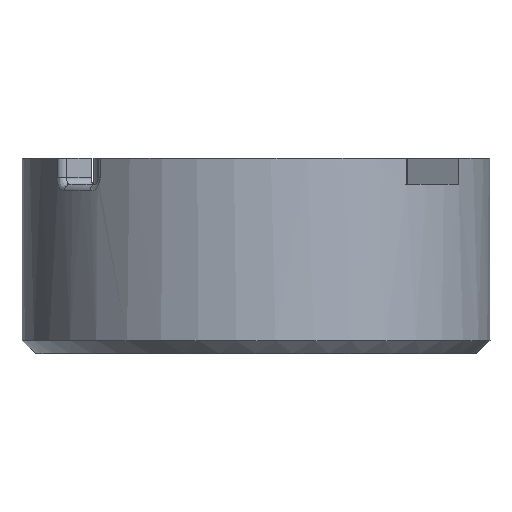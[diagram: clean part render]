
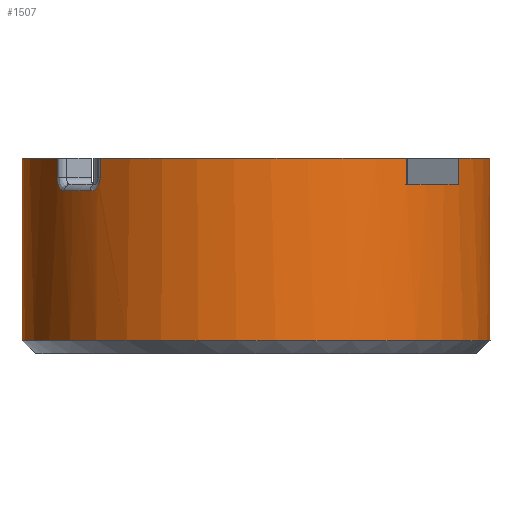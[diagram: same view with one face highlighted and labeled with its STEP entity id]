
A CAD part, front view. The second image highlights one B-rep face of the part: STEP entity #1507.
In plain terms, the highlighted cylindrical face has radius 18 mm (diameter 36 mm), a partial arc.
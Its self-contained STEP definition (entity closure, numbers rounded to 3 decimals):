
#59=LINE('',#2289,#169);
#60=LINE('',#2293,#170);
#61=LINE('',#2297,#171);
#62=LINE('',#2301,#172);
#63=LINE('',#2317,#173);
#64=LINE('',#2320,#174);
#169=VECTOR('',#1807,10.);
#170=VECTOR('',#1810,10.);
#171=VECTOR('',#1813,10.);
#172=VECTOR('',#1816,10.);
#173=VECTOR('',#1819,10.);
#174=VECTOR('',#1822,10.);
#279=CYLINDRICAL_SURFACE('',#1619,18.);
#322=FACE_OUTER_BOUND('',#409,.T.);
#409=EDGE_LOOP('',(#1026,#1027,#1028,#1029,#1030,#1031,#1032,#1033,#1034,
#1035,#1036,#1037,#1038,#1039));
#499=CIRCLE('',#1618,18.);
#500=CIRCLE('',#1620,18.);
#501=CIRCLE('',#1621,18.);
#502=CIRCLE('',#1622,18.);
#503=CIRCLE('',#1623,18.);
#504=CIRCLE('',#1624,18.);
#602=B_SPLINE_CURVE_WITH_KNOTS('',3,(#2303,#2304,#2305,#2306,#2307),
 .UNSPECIFIED.,.F.,.F.,(4,1,4),(0.,0.068,0.158),
 .UNSPECIFIED.);
#603=B_SPLINE_CURVE_WITH_KNOTS('',3,(#2311,#2312,#2313,#2314,#2315),
 .UNSPECIFIED.,.F.,.F.,(4,1,4),(0.,0.068,0.158),
 .UNSPECIFIED.);
#629=VERTEX_POINT('',#2274);
#631=VERTEX_POINT('',#2281);
#632=VERTEX_POINT('',#2288);
#633=VERTEX_POINT('',#2290);
#634=VERTEX_POINT('',#2292);
#635=VERTEX_POINT('',#2294);
#636=VERTEX_POINT('',#2296);
#637=VERTEX_POINT('',#2298);
#638=VERTEX_POINT('',#2300);
#639=VERTEX_POINT('',#2302);
#640=VERTEX_POINT('',#2308);
#641=VERTEX_POINT('',#2310);
#642=VERTEX_POINT('',#2316);
#643=VERTEX_POINT('',#2318);
#785=EDGE_CURVE('',#631,#629,#499,.T.);
#786=EDGE_CURVE('',#632,#631,#59,.T.);
#787=EDGE_CURVE('',#633,#632,#500,.T.);
#788=EDGE_CURVE('',#633,#634,#60,.T.);
#789=EDGE_CURVE('',#634,#635,#501,.T.);
#790=EDGE_CURVE('',#635,#636,#61,.T.);
#791=EDGE_CURVE('',#637,#636,#502,.T.);
#792=EDGE_CURVE('',#638,#637,#62,.T.);
#793=EDGE_CURVE('',#639,#638,#602,.T.);
#794=EDGE_CURVE('',#640,#639,#503,.T.);
#795=EDGE_CURVE('',#641,#640,#603,.T.);
#796=EDGE_CURVE('',#642,#641,#63,.T.);
#797=EDGE_CURVE('',#643,#642,#504,.T.);
#798=EDGE_CURVE('',#643,#629,#64,.T.);
#1026=ORIENTED_EDGE('',*,*,#785,.F.);
#1027=ORIENTED_EDGE('',*,*,#786,.F.);
#1028=ORIENTED_EDGE('',*,*,#787,.F.);
#1029=ORIENTED_EDGE('',*,*,#788,.T.);
#1030=ORIENTED_EDGE('',*,*,#789,.T.);
#1031=ORIENTED_EDGE('',*,*,#790,.T.);
#1032=ORIENTED_EDGE('',*,*,#791,.F.);
#1033=ORIENTED_EDGE('',*,*,#792,.F.);
#1034=ORIENTED_EDGE('',*,*,#793,.F.);
#1035=ORIENTED_EDGE('',*,*,#794,.F.);
#1036=ORIENTED_EDGE('',*,*,#795,.F.);
#1037=ORIENTED_EDGE('',*,*,#796,.F.);
#1038=ORIENTED_EDGE('',*,*,#797,.F.);
#1039=ORIENTED_EDGE('',*,*,#798,.T.);
#1507=ADVANCED_FACE('',(#322),#279,.T.);
#1618=AXIS2_PLACEMENT_3D('',#2286,#1803,#1804);
#1619=AXIS2_PLACEMENT_3D('',#2287,#1805,#1806);
#1620=AXIS2_PLACEMENT_3D('',#2291,#1808,#1809);
#1621=AXIS2_PLACEMENT_3D('',#2295,#1811,#1812);
#1622=AXIS2_PLACEMENT_3D('',#2299,#1814,#1815);
#1623=AXIS2_PLACEMENT_3D('',#2309,#1817,#1818);
#1624=AXIS2_PLACEMENT_3D('',#2319,#1820,#1821);
#1803=DIRECTION('center_axis',(0.,0.,-1.));
#1804=DIRECTION('ref_axis',(0.984,-0.179,0.));
#1805=DIRECTION('center_axis',(0.,0.,-1.));
#1806=DIRECTION('ref_axis',(0.,-1.,0.));
#1807=DIRECTION('',(0.,0.,-1.));
#1808=DIRECTION('center_axis',(0.,0.,1.));
#1809=DIRECTION('ref_axis',(-0.984,0.179,0.));
#1810=DIRECTION('',(0.,0.,-1.));
#1811=DIRECTION('center_axis',(0.,0.,-1.));
#1812=DIRECTION('ref_axis',(-0.984,0.179,0.));
#1813=DIRECTION('',(0.,0.,1.));
#1814=DIRECTION('center_axis',(0.,0.,1.));
#1815=DIRECTION('ref_axis',(-0.984,0.179,0.));
#1816=DIRECTION('',(0.,0.,1.));
#1817=DIRECTION('center_axis',(0.,0.,1.));
#1818=DIRECTION('ref_axis',(-0.766,-0.643,0.));
#1819=DIRECTION('',(0.,0.,-1.));
#1820=DIRECTION('center_axis',(0.,0.,1.));
#1821=DIRECTION('ref_axis',(-0.984,0.179,0.));
#1822=DIRECTION('',(0.,0.,-1.));
#2274=CARTESIAN_POINT('',(-17.708,3.227,-14.));
#2281=CARTESIAN_POINT('',(17.708,3.227,-14.));
#2286=CARTESIAN_POINT('Origin',(0.,0.,-14.));
#2287=CARTESIAN_POINT('Origin',(0.,0.,0.));
#2288=CARTESIAN_POINT('',(17.708,3.227,0.));
#2289=CARTESIAN_POINT('',(17.708,3.227,0.));
#2290=CARTESIAN_POINT('',(15.588,-9.,0.));
#2291=CARTESIAN_POINT('Origin',(0.,0.,0.));
#2292=CARTESIAN_POINT('',(15.588,-9.,-2.));
#2293=CARTESIAN_POINT('',(15.588,-9.,0.));
#2294=CARTESIAN_POINT('',(11.57,-13.789,-2.));
#2295=CARTESIAN_POINT('Origin',(0.,0.,-2.));
#2296=CARTESIAN_POINT('',(11.57,-13.789,0.));
#2297=CARTESIAN_POINT('',(11.57,-13.789,0.));
#2298=CARTESIAN_POINT('',(-11.994,-13.421,0.));
#2299=CARTESIAN_POINT('Origin',(0.,0.,0.));
#2300=CARTESIAN_POINT('',(-11.994,-13.421,-1.5));
#2301=CARTESIAN_POINT('',(-11.994,-13.421,0.));
#2302=CARTESIAN_POINT('',(-12.746,-12.709,-2.5));
#2303=CARTESIAN_POINT('Ctrl Pts',(-12.746,-12.709,-2.5));
#2304=CARTESIAN_POINT('Ctrl Pts',(-12.583,-12.873,-2.5));
#2305=CARTESIAN_POINT('Ctrl Pts',(-12.192,-13.248,-2.318));
#2306=CARTESIAN_POINT('Ctrl Pts',(-11.994,-13.421,-1.8));
#2307=CARTESIAN_POINT('Ctrl Pts',(-11.994,-13.421,-1.5));
#2308=CARTESIAN_POINT('',(-14.73,-10.346,-2.5));
#2309=CARTESIAN_POINT('Origin',(0.,0.,-2.5));
#2310=CARTESIAN_POINT('',(-15.3,-9.482,-1.5));
#2311=CARTESIAN_POINT('Ctrl Pts',(-15.3,-9.482,-1.5));
#2312=CARTESIAN_POINT('Ctrl Pts',(-15.3,-9.482,-1.725));
#2313=CARTESIAN_POINT('Ctrl Pts',(-15.201,-9.646,-2.25));
#2314=CARTESIAN_POINT('Ctrl Pts',(-14.907,-10.093,-2.5));
#2315=CARTESIAN_POINT('Ctrl Pts',(-14.73,-10.346,-2.5));
#2316=CARTESIAN_POINT('',(-15.3,-9.482,0.));
#2317=CARTESIAN_POINT('',(-15.3,-9.482,0.));
#2318=CARTESIAN_POINT('',(-17.708,3.227,0.));
#2319=CARTESIAN_POINT('Origin',(0.,0.,0.));
#2320=CARTESIAN_POINT('',(-17.708,3.227,0.));
